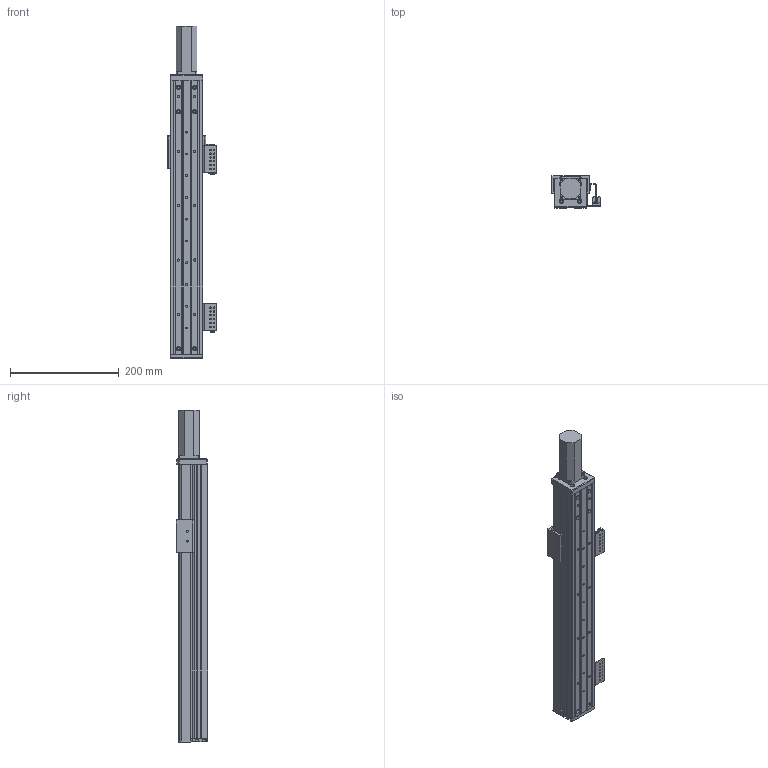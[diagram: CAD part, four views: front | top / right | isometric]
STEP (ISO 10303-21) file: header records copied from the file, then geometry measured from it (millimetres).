
FILE_DESCRIPTION (( 'STEP AP203' ), '1' );
FILE_NAME ('RY60FB-L1210-300-MK.SLDASM_300.step', '2021-02-22T08:25:24', ( '盈信电脑' ), ( '东莞市道滘镇水果街19号' ), 'SwSTEP 2.0', 'SolidWorks 2012', '' );
FILE_SCHEMA (( 'CONFIG_CONTROL_DESIGN' ));
Length unit declared in the file: millimetre
Products named in the file (14): RY60FB-L1210-300-MK.SLDASM_300; RY80俋离覜茼え; RY60FB-674嫖萇耀輸; 侂狟100W; RY60FB綴裔啣; 覜茼ん674; RY60FB-感应器674光电安装座; RY60FB前盖板100(M3); 滅袉蝶18-20; 滅袉蝶18-10; RY60FB-300-奻裔-MK; RY60FB-300-菁釱-MK; RY60FB-臏賑輸
Assembly tree (18 placements, depth 3):
  RY60FB-L1210-300-MK.SLDASM_300
    RY60FB-300-菁釱-MK
    RY60FB-臏賑輸
    滅袉蝶18-20  x2
    滅袉蝶18-10  x2
    RY60FB-300-奻裔-MK
    RY60FB前盖板100(M3)
    侂狟100W
    RY60FB綴裔啣
    RY60FB-674嫖萇耀輸
      RY60FB-感应器674光电安装座
      覜茼ん674  x2
    RY80俋离覜茼え
    RY60FB-674嫖萇耀輸
      RY60FB-感应器674光电安装座
      覜茼ん674
Bounding box: 90 x 58.5 x 610 mm (x, y, z)
Volume: 713094.1 mm3; surface area: 375445.3 mm2
Topology: 16 solids, 16 shells, 953 faces, 2626 edges, 1695 vertices
Faces by surface type: plane 474, cylinder 412, cone 67
Entity records: 26694 total; most frequent: CARTESIAN_POINT 5009, DIRECTION 4248, ORIENTED_EDGE 4152, EDGE_CURVE 2076, AXIS2_PLACEMENT_3D 1494, VERTEX_POINT 1351, VECTOR 1260, LINE 1260
